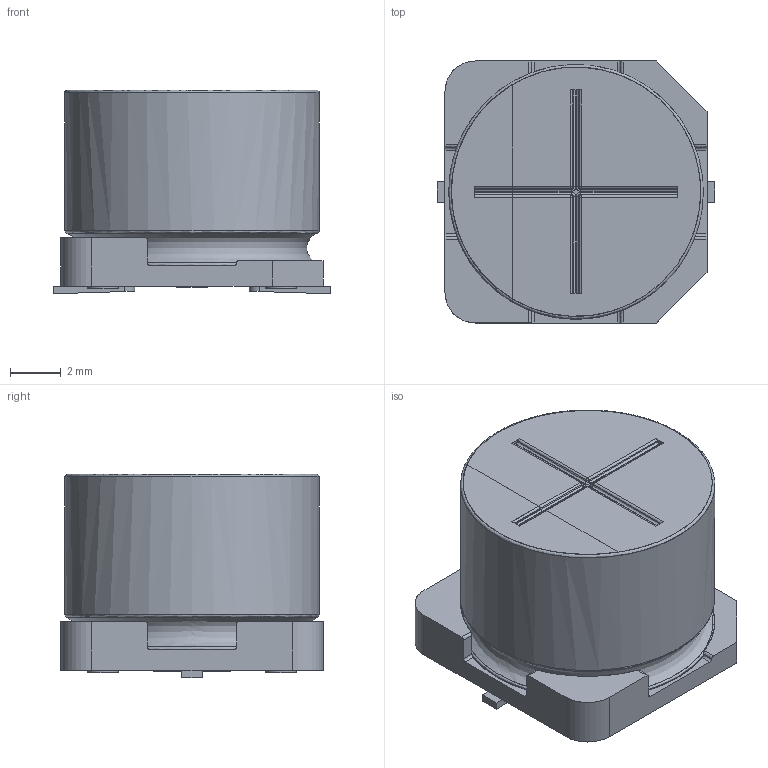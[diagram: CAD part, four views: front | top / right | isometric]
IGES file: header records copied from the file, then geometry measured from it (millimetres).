
Start section: JAMA-IS VERSION  1.0
Bounding box: 10.9 x 10.3 x 8 mm (x, y, z)
Surface area: 693.2 mm2 (no closed solid volume)
Topology: 0 solids, 0 shells, 134 faces, 1310 edges, 1290 vertices
Faces by surface type: bspline 134
